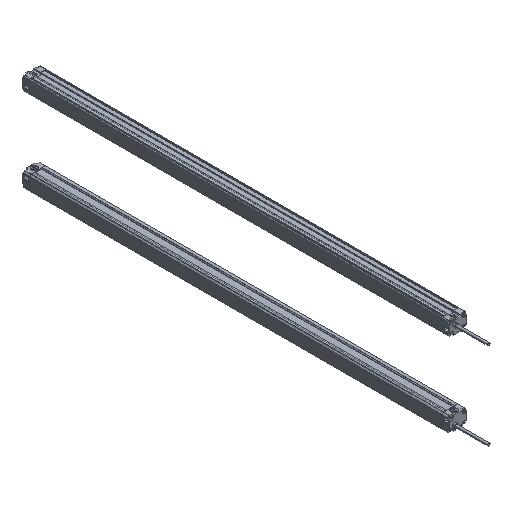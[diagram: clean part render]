
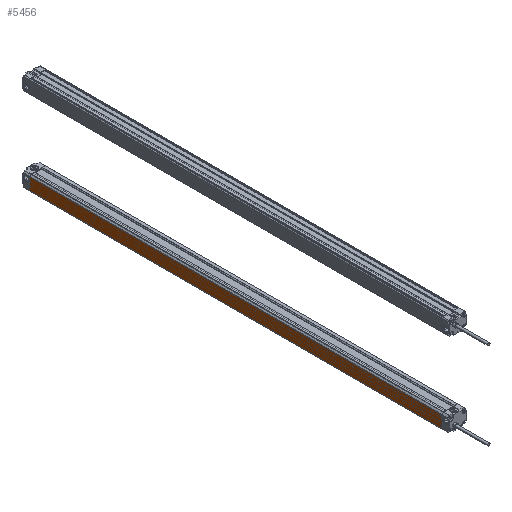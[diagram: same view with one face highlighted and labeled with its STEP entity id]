
A CAD part, isometric view. The second image highlights one B-rep face of the part: STEP entity #5456.
In plain terms, the highlighted planar face has unit normal (-1, 0, 0).
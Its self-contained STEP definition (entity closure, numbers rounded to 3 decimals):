
#5 = DIRECTION ( 'NONE',  ( 0., 0., 1. ) ) ;
#10 = AXIS2_PLACEMENT_3D ( 'NONE', #5921, #10090, #5 ) ;
#439 = DIRECTION ( 'NONE',  ( 0., 1., 0. ) ) ;
#1265 = LINE ( 'NONE', #3463, #8508 ) ;
#1687 = EDGE_LOOP ( 'NONE', ( #9407, #4320, #6930, #6483 ) ) ;
#2809 = DIRECTION ( 'NONE',  ( 0., 0., 1. ) ) ;
#3253 = LINE ( 'NONE', #5280, #8925 ) ;
#3341 = PLANE ( 'NONE',  #10 ) ;
#3400 = EDGE_CURVE ( 'NONE', #10385, #3661, #6797, .T. ) ;
#3423 = DIRECTION ( 'NONE',  ( 0., 1., 0. ) ) ;
#3463 = CARTESIAN_POINT ( 'NONE',  ( -12.5, -600., 8.293 ) ) ;
#3513 = EDGE_CURVE ( 'NONE', #4424, #10385, #4033, .T. ) ;
#3624 = CARTESIAN_POINT ( 'NONE',  ( -12.5, 0., -9.2 ) ) ;
#3661 = VERTEX_POINT ( 'NONE', #5682 ) ;
#4033 = LINE ( 'NONE', #5452, #9324 ) ;
#4320 = ORIENTED_EDGE ( 'NONE', *, *, #3513, .F. ) ;
#4424 = VERTEX_POINT ( 'NONE', #9953 ) ;
#5280 = CARTESIAN_POINT ( 'NONE',  ( -12.5, -600., -9.2 ) ) ;
#5452 = CARTESIAN_POINT ( 'NONE',  ( -12.5, -600., -9.2 ) ) ;
#5456 = ADVANCED_FACE ( 'NONE', ( #6998 ), #3341, .T. ) ;
#5682 = CARTESIAN_POINT ( 'NONE',  ( -12.5, 0., 8.293 ) ) ;
#5921 = CARTESIAN_POINT ( 'NONE',  ( -12.5, -600., -9.2 ) ) ;
#6129 = VECTOR ( 'NONE', #2809, 1000. ) ;
#6483 = ORIENTED_EDGE ( 'NONE', *, *, #8010, .T. ) ;
#6797 = LINE ( 'NONE', #8641, #6129 ) ;
#6930 = ORIENTED_EDGE ( 'NONE', *, *, #7746, .T. ) ;
#6998 = FACE_OUTER_BOUND ( 'NONE', #1687, .T. ) ;
#7746 = EDGE_CURVE ( 'NONE', #4424, #8764, #3253, .T. ) ;
#7830 = DIRECTION ( 'NONE',  ( 0., 0., 1. ) ) ;
#8010 = EDGE_CURVE ( 'NONE', #8764, #3661, #1265, .T. ) ;
#8508 = VECTOR ( 'NONE', #3423, 1000. ) ;
#8641 = CARTESIAN_POINT ( 'NONE',  ( -12.5, 0., -9.2 ) ) ;
#8764 = VERTEX_POINT ( 'NONE', #9557 ) ;
#8925 = VECTOR ( 'NONE', #7830, 1000. ) ;
#9324 = VECTOR ( 'NONE', #439, 1000. ) ;
#9407 = ORIENTED_EDGE ( 'NONE', *, *, #3400, .F. ) ;
#9557 = CARTESIAN_POINT ( 'NONE',  ( -12.5, -600., 8.293 ) ) ;
#9953 = CARTESIAN_POINT ( 'NONE',  ( -12.5, -600., -9.2 ) ) ;
#10090 = DIRECTION ( 'NONE',  ( -1., 0., 0. ) ) ;
#10385 = VERTEX_POINT ( 'NONE', #3624 ) ;
